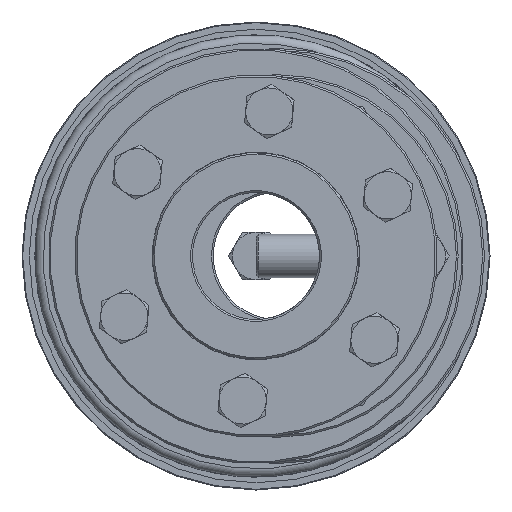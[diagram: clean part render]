
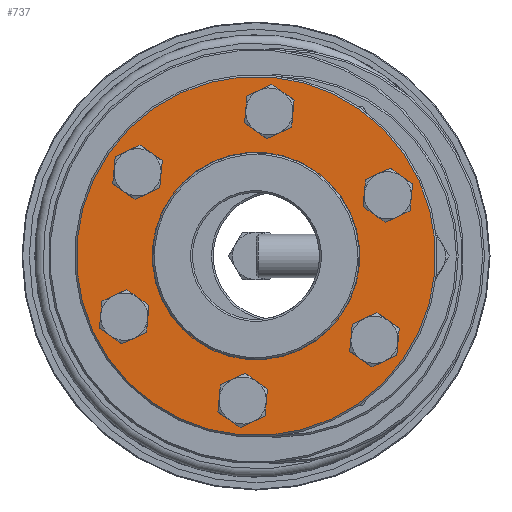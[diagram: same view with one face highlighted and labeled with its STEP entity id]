
A CAD part, left-side view. The second image highlights one B-rep face of the part: STEP entity #737.
In plain terms, the highlighted planar face has unit normal (-1, 0, 0).
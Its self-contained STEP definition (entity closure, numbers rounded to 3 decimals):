
#737 = ADVANCED_FACE( 'NONE', ( #1130, #1131, #1132, #1133, #1134, #1135, #1136, #1137 ), #1138, .F. );
#1130 = FACE_OUTER_BOUND( '', #1624, .T. );
#1131 = FACE_BOUND( '', #1625, .T. );
#1132 = FACE_BOUND( '', #1626, .T. );
#1133 = FACE_BOUND( '', #1627, .T. );
#1134 = FACE_BOUND( '', #1628, .T. );
#1135 = FACE_BOUND( '', #1629, .T. );
#1136 = FACE_BOUND( '', #1630, .T. );
#1137 = FACE_BOUND( '', #1631, .T. );
#1138 = PLANE( '', #1632 );
#1624 = EDGE_LOOP( '', ( #2218 ) );
#1625 = EDGE_LOOP( '', ( #2219 ) );
#1626 = EDGE_LOOP( '', ( #2220 ) );
#1627 = EDGE_LOOP( '', ( #2221 ) );
#1628 = EDGE_LOOP( '', ( #2222 ) );
#1629 = EDGE_LOOP( '', ( #2223 ) );
#1630 = EDGE_LOOP( '', ( #2224 ) );
#1631 = EDGE_LOOP( '', ( #2225 ) );
#1632 = AXIS2_PLACEMENT_3D( '', #2226, #2227, #2228 );
#2218 = ORIENTED_EDGE( '', *, *, #3093, .T. );
#2219 = ORIENTED_EDGE( '', *, *, #3094, .T. );
#2220 = ORIENTED_EDGE( '', *, *, #3095, .T. );
#2221 = ORIENTED_EDGE( '', *, *, #3096, .T. );
#2222 = ORIENTED_EDGE( '', *, *, #3092, .T. );
#2223 = ORIENTED_EDGE( '', *, *, #3097, .T. );
#2224 = ORIENTED_EDGE( '', *, *, #3083, .T. );
#2225 = ORIENTED_EDGE( '', *, *, #3091, .F. );
#2226 = CARTESIAN_POINT( '', ( 0., 28.5, 0. ) );
#2227 = DIRECTION( '', ( 1., 0., 0. ) );
#2228 = DIRECTION( '', ( 0., 1., 0. ) );
#3083 = EDGE_CURVE( 'NONE', #3421, #3421, #3422, .T. );
#3091 = EDGE_CURVE( 'NONE', #3437, #3437, #3438, .T. );
#3092 = EDGE_CURVE( 'NONE', #3439, #3439, #3440, .T. );
#3093 = EDGE_CURVE( 'NONE', #3441, #3441, #3442, .T. );
#3094 = EDGE_CURVE( 'NONE', #3443, #3443, #3444, .T. );
#3095 = EDGE_CURVE( 'NONE', #3445, #3445, #3446, .T. );
#3096 = EDGE_CURVE( 'NONE', #3447, #3447, #3448, .T. );
#3097 = EDGE_CURVE( 'NONE', #3449, #3449, #3450, .T. );
#3421 = VERTEX_POINT( '', #3829 );
#3422 = CIRCLE( '', #3830, 4.5 );
#3437 = VERTEX_POINT( '', #3845 );
#3438 = CIRCLE( '', #3846, 28.5 );
#3439 = VERTEX_POINT( '', #3847 );
#3440 = CIRCLE( '', #3848, 4.5 );
#3441 = VERTEX_POINT( '', #3849 );
#3442 = CIRCLE( '', #3850, 49.5 );
#3443 = VERTEX_POINT( '', #3851 );
#3444 = CIRCLE( '', #3852, 4.5 );
#3445 = VERTEX_POINT( '', #3853 );
#3446 = CIRCLE( '', #3854, 4.5 );
#3447 = VERTEX_POINT( '', #3855 );
#3448 = CIRCLE( '', #3856, 4.5 );
#3449 = VERTEX_POINT( '', #3857 );
#3450 = CIRCLE( '', #3858, 4.5 );
#3829 = CARTESIAN_POINT( '', ( 0., 40., -4.5 ) );
#3830 = AXIS2_PLACEMENT_3D( '', #4826, #4827, #4828 );
#3845 = CARTESIAN_POINT( '', ( 0., 0., 28.5 ) );
#3846 = AXIS2_PLACEMENT_3D( '', #4850, #4851, #4852 );
#3847 = CARTESIAN_POINT( '', ( 0., -20., -39.141 ) );
#3848 = AXIS2_PLACEMENT_3D( '', #4853, #4854, #4855 );
#3849 = CARTESIAN_POINT( '', ( 0., 0., -49.5 ) );
#3850 = AXIS2_PLACEMENT_3D( '', #4856, #4857, #4858 );
#3851 = CARTESIAN_POINT( '', ( 0., 20., 30.141 ) );
#3852 = AXIS2_PLACEMENT_3D( '', #4859, #4860, #4861 );
#3853 = CARTESIAN_POINT( '', ( 0., -20., 30.141 ) );
#3854 = AXIS2_PLACEMENT_3D( '', #4862, #4863, #4864 );
#3855 = CARTESIAN_POINT( '', ( 0., -40., -4.5 ) );
#3856 = AXIS2_PLACEMENT_3D( '', #4865, #4866, #4867 );
#3857 = CARTESIAN_POINT( '', ( 0., 20., -39.141 ) );
#3858 = AXIS2_PLACEMENT_3D( '', #4868, #4869, #4870 );
#4826 = CARTESIAN_POINT( '', ( 0., 40., 0. ) );
#4827 = DIRECTION( '', ( 1., 0., 0. ) );
#4828 = DIRECTION( '', ( 0., 0., -1. ) );
#4850 = CARTESIAN_POINT( '', ( 0., 0., 0. ) );
#4851 = DIRECTION( '', ( -1., 0., 0. ) );
#4852 = DIRECTION( '', ( 0., 0., 1. ) );
#4853 = CARTESIAN_POINT( '', ( 0., -20., -34.641 ) );
#4854 = DIRECTION( '', ( 1., 0., 0. ) );
#4855 = DIRECTION( '', ( 0., 0., -1. ) );
#4856 = CARTESIAN_POINT( '', ( 0., 0., 0. ) );
#4857 = DIRECTION( '', ( -1., 0., 0. ) );
#4858 = DIRECTION( '', ( 0., 0., -1. ) );
#4859 = CARTESIAN_POINT( '', ( 0., 20., 34.641 ) );
#4860 = DIRECTION( '', ( 1., 0., 0. ) );
#4861 = DIRECTION( '', ( 0., 0., -1. ) );
#4862 = CARTESIAN_POINT( '', ( 0., -20., 34.641 ) );
#4863 = DIRECTION( '', ( 1., 0., 0. ) );
#4864 = DIRECTION( '', ( 0., 0., -1. ) );
#4865 = CARTESIAN_POINT( '', ( 0., -40., 0. ) );
#4866 = DIRECTION( '', ( 1., 0., 0. ) );
#4867 = DIRECTION( '', ( 0., 0., -1. ) );
#4868 = CARTESIAN_POINT( '', ( 0., 20., -34.641 ) );
#4869 = DIRECTION( '', ( 1., 0., 0. ) );
#4870 = DIRECTION( '', ( 0., 0., -1. ) );
